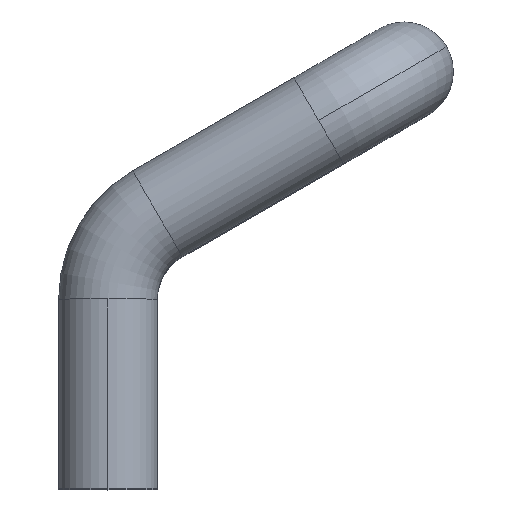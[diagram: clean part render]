
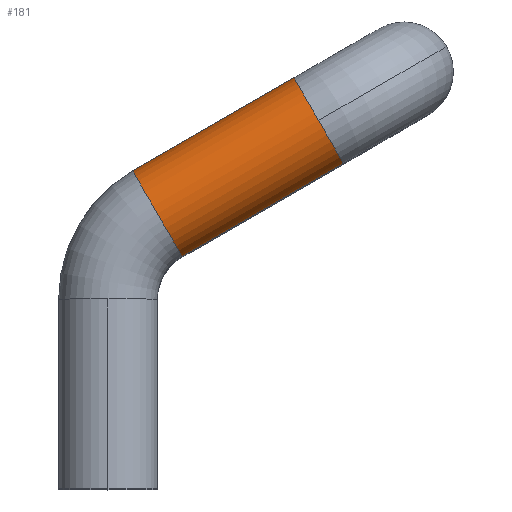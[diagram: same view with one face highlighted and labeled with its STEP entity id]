
A CAD part, top view. The second image highlights one B-rep face of the part: STEP entity #181.
In plain terms, the highlighted cylindrical face has radius 5 mm (diameter 10 mm), a partial arc.
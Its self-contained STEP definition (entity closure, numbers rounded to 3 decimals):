
#1 = DIRECTION ( 'NONE',  ( 0.866, 0.5, 0. ) ) ;
#38 = CARTESIAN_POINT ( 'NONE',  ( 7.5, 23.557, 0. ) ) ;
#58 = CARTESIAN_POINT ( 'NONE',  ( 5., 27.887, 0. ) ) ;
#59 = VERTEX_POINT ( 'NONE', #597 ) ;
#67 = CARTESIAN_POINT ( 'NONE',  ( 7.5, 23.557, 0. ) ) ;
#108 = CIRCLE ( 'NONE', #618, 5. ) ;
#162 = CARTESIAN_POINT ( 'NONE',  ( 2.5, 32.217, 0. ) ) ;
#181 = ADVANCED_FACE ( 'NONE', ( #534 ), #405, .T. ) ;
#184 = VERTEX_POINT ( 'NONE', #261 ) ;
#185 = CARTESIAN_POINT ( 'NONE',  ( 21.34, 37.321, 0. ) ) ;
#199 = DIRECTION ( 'NONE',  ( 0., 0., 1. ) ) ;
#204 = DIRECTION ( 'NONE',  ( -0.5, 0.866, 0. ) ) ;
#247 = DIRECTION ( 'NONE',  ( 0., 0., 1. ) ) ;
#261 = CARTESIAN_POINT ( 'NONE',  ( 2.5, 32.217, 0. ) ) ;
#296 = EDGE_LOOP ( 'NONE', ( #745, #776, #838, #785, #353 ) ) ;
#304 = CIRCLE ( 'NONE', #693, 5. ) ;
#308 = EDGE_CURVE ( 'NONE', #184, #560, #509, .T. ) ;
#344 = EDGE_CURVE ( 'NONE', #184, #737, #856, .T. ) ;
#353 = ORIENTED_EDGE ( 'NONE', *, *, #344, .F. ) ;
#405 = CYLINDRICAL_SURFACE ( 'NONE', #675, 5. ) ;
#407 = VECTOR ( 'NONE', #865, 1000. ) ;
#480 = CARTESIAN_POINT ( 'NONE',  ( 18.84, 41.651, 0. ) ) ;
#483 = DIRECTION ( 'NONE',  ( 0.866, 0.5, 0. ) ) ;
#509 = CIRCLE ( 'NONE', #827, 5. ) ;
#518 = DIRECTION ( 'NONE',  ( 0.866, 0.5, 0. ) ) ;
#527 = CARTESIAN_POINT ( 'NONE',  ( 21.34, 37.321, 0. ) ) ;
#534 = FACE_OUTER_BOUND ( 'NONE', #296, .T. ) ;
#560 = VERTEX_POINT ( 'NONE', #38 ) ;
#564 = EDGE_CURVE ( 'NONE', #737, #59, #108, .T. ) ;
#574 = VERTEX_POINT ( 'NONE', #733 ) ;
#581 = EDGE_CURVE ( 'NONE', #59, #574, #304, .T. ) ;
#597 = CARTESIAN_POINT ( 'NONE',  ( 21.34, 37.321, 5. ) ) ;
#618 = AXIS2_PLACEMENT_3D ( 'NONE', #527, #816, #247 ) ;
#675 = AXIS2_PLACEMENT_3D ( 'NONE', #58, #1, #204 ) ;
#693 = AXIS2_PLACEMENT_3D ( 'NONE', #185, #518, #804 ) ;
#733 = CARTESIAN_POINT ( 'NONE',  ( 23.84, 32.99, 0. ) ) ;
#737 = VERTEX_POINT ( 'NONE', #480 ) ;
#745 = ORIENTED_EDGE ( 'NONE', *, *, #308, .T. ) ;
#746 = EDGE_CURVE ( 'NONE', #560, #574, #759, .T. ) ;
#759 = LINE ( 'NONE', #67, #830 ) ;
#764 = DIRECTION ( 'NONE',  ( 0.866, 0.5, 0. ) ) ;
#776 = ORIENTED_EDGE ( 'NONE', *, *, #746, .T. ) ;
#785 = ORIENTED_EDGE ( 'NONE', *, *, #564, .F. ) ;
#804 = DIRECTION ( 'NONE',  ( 0., 0., 1. ) ) ;
#816 = DIRECTION ( 'NONE',  ( 0.866, 0.5, 0. ) ) ;
#827 = AXIS2_PLACEMENT_3D ( 'NONE', #908, #483, #199 ) ;
#830 = VECTOR ( 'NONE', #764, 1000. ) ;
#838 = ORIENTED_EDGE ( 'NONE', *, *, #581, .F. ) ;
#856 = LINE ( 'NONE', #162, #407 ) ;
#865 = DIRECTION ( 'NONE',  ( 0.866, 0.5, 0. ) ) ;
#908 = CARTESIAN_POINT ( 'NONE',  ( 5., 27.887, 0. ) ) ;
